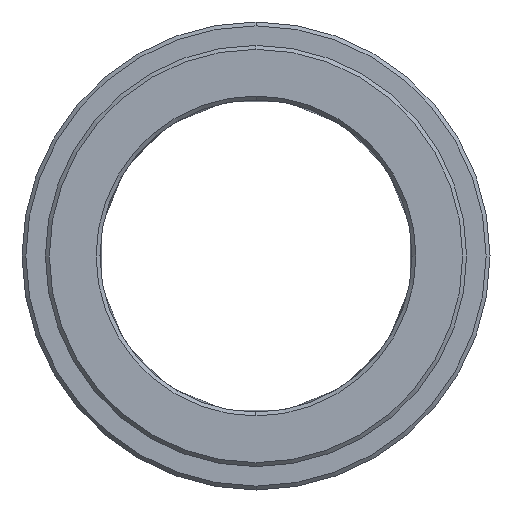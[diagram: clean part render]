
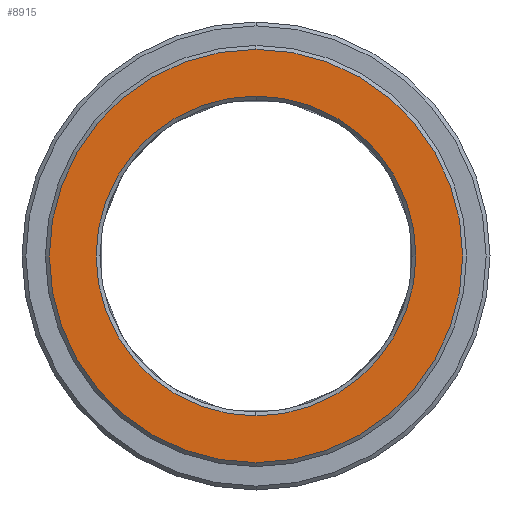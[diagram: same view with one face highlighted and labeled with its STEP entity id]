
A CAD part, left-side view. The second image highlights one B-rep face of the part: STEP entity #8915.
In plain terms, the highlighted planar face has unit normal (-1, 0, 0).
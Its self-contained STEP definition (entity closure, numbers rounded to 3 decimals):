
#6082=CARTESIAN_POINT('',(-10.,0.,
0.));
#6083=DIRECTION('',(1.,0.,0.));
#6084=DIRECTION('',(0.,0.,1.));
#6085=AXIS2_PLACEMENT_3D('',#6082,#6083,#6084);
#6087=CARTESIAN_POINT('',(-10.,0.,
0.));
#6088=DIRECTION('',(1.,0.,0.));
#6089=DIRECTION('',(0.,0.,-1.));
#6090=AXIS2_PLACEMENT_3D('',#6087,#6088,#6089);
#6092=CARTESIAN_POINT('',(-10.,0.,
0.));
#6093=DIRECTION('',(1.,0.,0.));
#6094=DIRECTION('',(0.,0.,1.));
#6095=AXIS2_PLACEMENT_3D('',#6092,#6093,#6094);
#6097=CARTESIAN_POINT('',(-10.,0.,
0.));
#6098=DIRECTION('',(1.,0.,0.));
#6099=DIRECTION('',(0.,0.,-1.));
#6100=AXIS2_PLACEMENT_3D('',#6097,#6098,#6099);
#6466=CARTESIAN_POINT('',(-10.,0.,20.5));
#6467=CARTESIAN_POINT('',(-10.,0.,-20.5));
#6468=VERTEX_POINT('',#6466);
#6469=VERTEX_POINT('',#6467);
#6474=CARTESIAN_POINT('',(-10.,0.,26.5));
#6475=CARTESIAN_POINT('',(-10.,0.,
-26.5));
#6476=VERTEX_POINT('',#6474);
#6477=VERTEX_POINT('',#6475);
#8900=CARTESIAN_POINT('',(-10.,0.,0.));
#8901=DIRECTION('',(1.,0.,0.));
#8902=DIRECTION('',(0.,0.,1.));
#8903=AXIS2_PLACEMENT_3D('',#8900,#8901,#8902);
#8904=PLANE('',#8903);
#8905=ORIENTED_EDGE('',*,*,#8867,.T.);
#8906=ORIENTED_EDGE('',*,*,#8882,.T.);
#8907=EDGE_LOOP('',(#8905,#8906));
#8908=FACE_OUTER_BOUND('',#8907,.F.);
#8910=ORIENTED_EDGE('',*,*,#8909,.F.);
#8912=ORIENTED_EDGE('',*,*,#8911,.F.);
#8913=EDGE_LOOP('',(#8910,#8912));
#8914=FACE_BOUND('',#8913,.F.);
#8915=ADVANCED_FACE('',(#8908,#8914),#8904,.F.);
#6086=CIRCLE('',#6085,26.5);
#6091=CIRCLE('',#6090,26.5);
#6096=CIRCLE('',#6095,20.5);
#6101=CIRCLE('',#6100,20.5);
#8867=EDGE_CURVE('',#6476,#6477,#6086,.T.);
#8882=EDGE_CURVE('',#6477,#6476,#6091,.T.);
#8909=EDGE_CURVE('',#6468,#6469,#6096,.T.);
#8911=EDGE_CURVE('',#6469,#6468,#6101,.T.);
